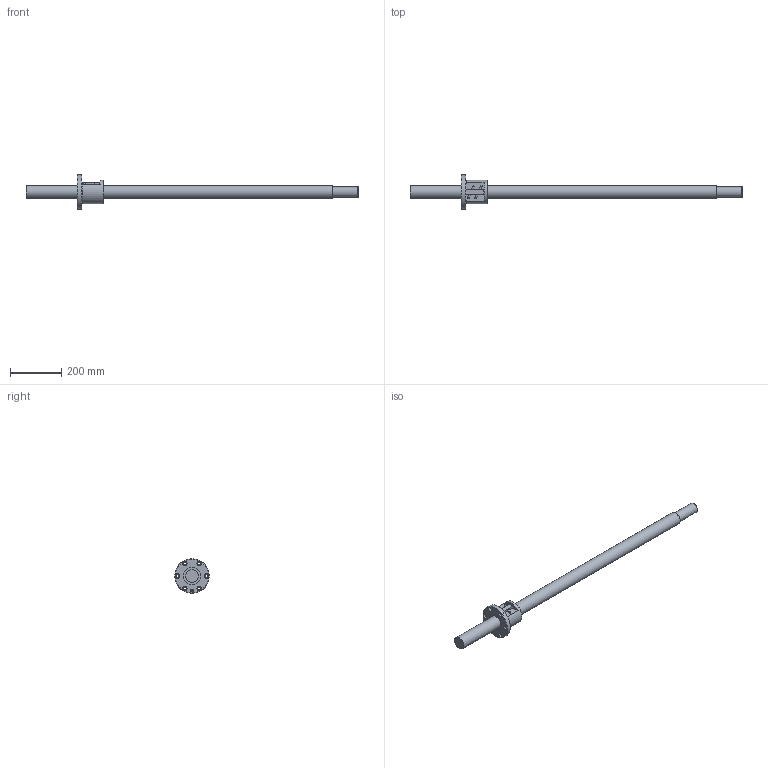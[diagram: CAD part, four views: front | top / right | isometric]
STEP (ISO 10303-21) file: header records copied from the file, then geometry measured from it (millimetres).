
FILE_DESCRIPTION(/* description */ ('STEP AP203'),/* implementation_level */ '2;1');
FILE_NAME(/* name */ 'BNF5010-5RRG1+1300LC5A(00)',/* time_stamp */ '2024-07-15T07:50:18+02:00',/* author */ ('License CC BY-ND 4.0'),/* organization */ ('CADENAS'),/* preprocessor_version */ 'ST-DEVELOPER v19.3',/* originating_system */ 'PARTsolutions',/* authorisation */ ' ');
FILE_SCHEMA (('CONFIG_CONTROL_DESIGN'));
Length unit declared in the file: millimetre
Products named in the file (3): BNF5010-5RRG1+1300LC5A(00); BNF5010-5RRG1+1300LC5A(00)_shaft; BNF 5010-5RR_nut
Assembly tree (2 placements, depth 2):
  BNF5010-5RRG1+1300LC5A(00)
    BNF5010-5RRG1+1300LC5A(00)_shaft
    BNF 5010-5RR_nut
Bounding box: 1300 x 135 x 135 mm (x, y, z)
Volume: 3026351.8 mm3; surface area: 287236.7 mm2
Topology: 2 solids, 2 shells, 69 faces, 159 edges, 104 vertices
Faces by surface type: cylinder 32, plane 24, cone 9, torus 4
Full cylindrical faces by diameter (mm): 4.5 x2, 6.198 x4, 8.566 x1, 11 x6, 17.5 x6, 40.3 x1, 50 x2, 68 x2, 93 x1, 135 x1
Entity records: 1817 total; most frequent: CARTESIAN_POINT 320, DIRECTION 316, ORIENTED_EDGE 212, AXIS2_PLACEMENT_3D 146, EDGE_LOOP 142, FACE_BOUND 142, EDGE_CURVE 106, VERTEX_POINT 90
